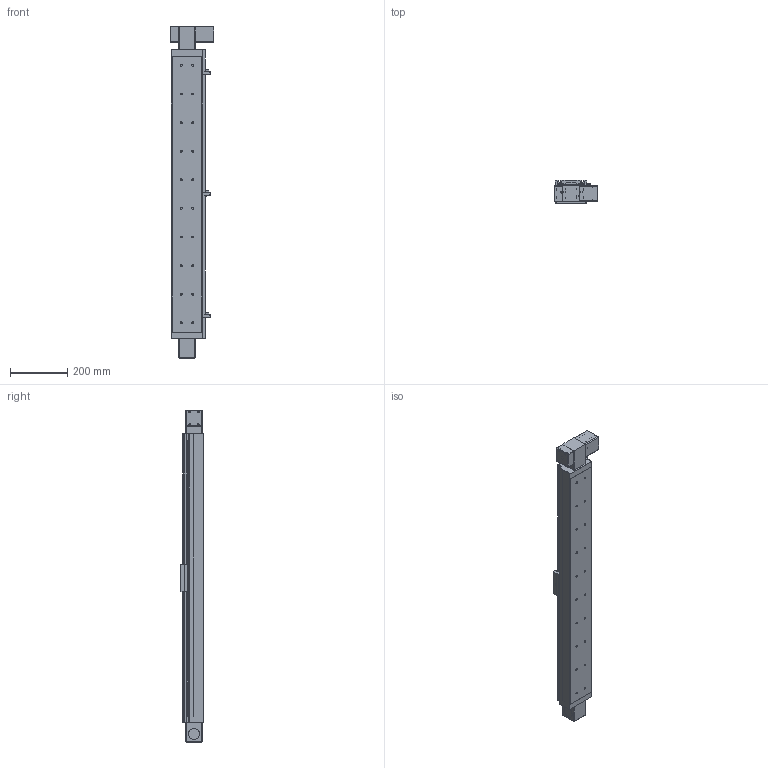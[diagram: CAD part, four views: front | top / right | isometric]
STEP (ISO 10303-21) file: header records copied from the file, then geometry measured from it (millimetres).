
FILE_DESCRIPTION((''),'2;1');
FILE_NAME('E:\uia actuator\UIA actuator 3d- 2015\Belt drive actuator\UIA110BR12(15)DC\UIA110BR12(15)DC-STEP FILE\UIA110BR12(15) stp file 13May16\UIA110BR12(15)DC-850-M23-P13-C10-S.stp','2016-05-13T16:02:25',('h029'),(''),'Autodesk Inventor 11','Autodesk Inventor 11','');
FILE_SCHEMA(('AUTOMOTIVE_DESIGN { 1 0 10303 214 1 1 1 1 }'));
Length unit declared in the file: millimetre
Products named in the file (11): UIA110BR12(15)DC-850; UIA110BR12(15)DC-850-body; UIA110BR12(15)DC-850-Sensor rail; UIA110B-Carriage; UIA110B- Sensor Flag; UIA110B-Cover; SOH-32C; SOH-32C-3; SOH-32C-1; SOH-32C-2; Motor mount
Assembly tree (10 placements, depth 3):
  UIA110BR12(15)DC-850
    UIA110BR12(15)DC-850-body
    UIA110BR12(15)DC-850-Sensor rail
    UIA110B-Carriage
    UIA110B- Sensor Flag
    UIA110B-Cover
    SOH-32C
      SOH-32C-3
      SOH-32C-1
      SOH-32C-2
    Motor mount
Bounding box: 152 x 81 x 1161 mm (x, y, z)
Volume: 3583726.3 mm3; surface area: 1016777.8 mm2
Topology: 9 solids, 13 shells, 756 faces, 2122 edges, 1360 vertices
Faces by surface type: plane 471, cylinder 195, cone 42, bspline 40, sphere 8
Full cylindrical faces by diameter (mm): 2.459 x4, 3 x2, 3.242 x8, 3.5 x4, 4 x10, 4.5 x4, 4.917 x8, 5 x2, 6.35 x1, 6.5 x20, 7.5 x4, 10 x3, 11 x20, 12 x1, 20 x2, 32 x3, 37 x1, 38.1 x1, 39 x2, 43.5 x1, 46 x2
Entity records: 25258 total; most frequent: CARTESIAN_POINT 6397, DIRECTION 3855, ORIENTED_EDGE 3678, EDGE_CURVE 1839, AXIS2_PLACEMENT_3D 1324, VERTEX_POINT 1264, VECTOR 1207, LINE 1207
